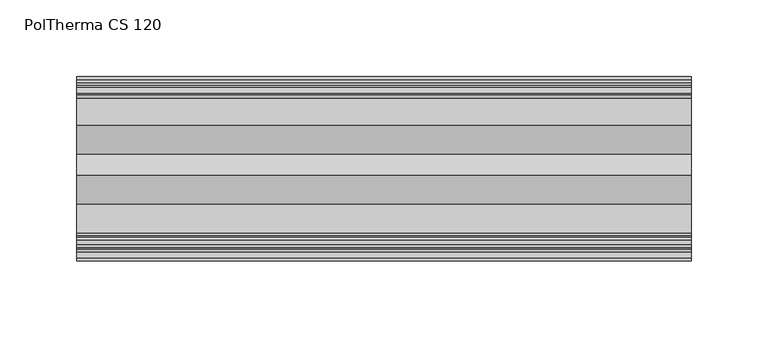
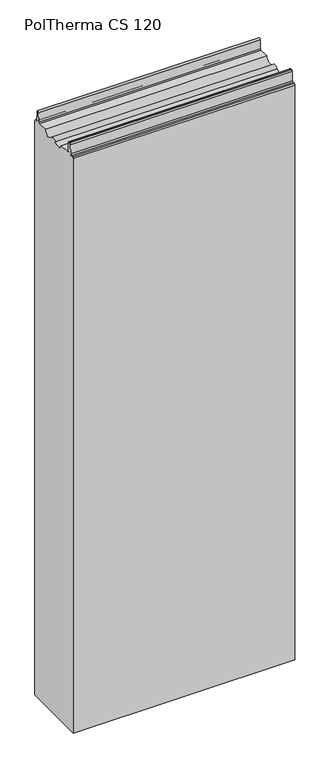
"""IFC4 building model written with IfcOpenShell, lengths in millimetres: plate geometry, Europanels_Poltherma CS_Hz : PolTherma CS 120."""

from ifc_helpers import new_model, si_unit, point, frame, frame_2d, origin, place, context, project, spatial, polyline, circle_curve, trimmed, segment, composite_curve, outline, extrude, source, transform, mapped, element, save


def poltherma_cs_120_40549a2e(model_context):
    return source(origin(), model_context, "Body", "SweptSolid", [
        extrude(outline(composite_curve([segment(polyline([(-60.0, 0.0), (-60.0, 1096.5011047)]), True, "CONTINUOUS"), segment(trimmed(circle_curve(frame_2d((-58.0, 1096.5011047)), 2.0), [point((-60.0, 1096.5011047))], [point((-58.0, 1098.5011047))], False, "CARTESIAN"), True, "CONTINUOUS"), segment(polyline([(-58.0, 1098.5011047), (-54.244573, 1098.5011047)]), True, "CONTINUOUS"), segment(trimmed(circle_curve(frame_2d((-54.244573, 1100.5011047)), 2.0), [point((-54.244573, 1098.5011047))], [point((-52.2483736, 1100.3778643))], True, "CARTESIAN"), True, "CONTINUOUS"), segment(polyline([(-52.2483736, 1100.3778643), (-51.1836192, 1117.624345)]), True, "CONTINUOUS"), segment(trimmed(circle_curve(frame_2d((-49.1874198, 1117.5011047)), 2.0), [point((-51.1836192, 1117.624345))], [point((-49.1874198, 1119.5011047))], False, "CARTESIAN"), True, "CONTINUOUS"), segment(polyline([(-49.1874198, 1119.5011047), (-46.4480373, 1119.5011047)]), True, "CONTINUOUS"), segment(trimmed(circle_curve(frame_2d((-46.4480373, 1117.5011047)), 2.0), [point((-46.4480373, 1119.5011047))], [point((-44.4498501, 1117.5862394))], False, "CARTESIAN"), True, "CONTINUOUS"), segment(polyline([(-44.4498501, 1117.5862394), (-43.7101357, 1100.2244834)]), True, "CONTINUOUS"), segment(trimmed(circle_curve(frame_2d((-41.9117672, 1100.3011047)), 1.8), [point((-43.7101357, 1100.2244834))], [point((-41.9117672, 1098.5011047))], True, "CARTESIAN"), True, "CONTINUOUS"), segment(polyline([(-41.9117672, 1098.5011047), (-22.9234285, 1098.5011047)]), True, "CONTINUOUS"), segment(trimmed(circle_curve(frame_2d((-12.3, 1101.354658)), 11.0), [point((-22.9234285, 1098.5011047))], [point((-4.05, 1094.0788419))], True, "CARTESIAN"), True, "CONTINUOUS"), segment(trimmed(circle_curve(frame_2d((2.7, 1088.1259015)), 9.0), [point((-4.05, 1094.0788419))], [point((9.45, 1094.0788419))], False, "CARTESIAN"), True, "CONTINUOUS"), segment(trimmed(circle_curve(frame_2d((17.7, 1101.354658)), 11.0), [point((9.45, 1094.0788419))], [point((28.3234285, 1098.5011047))], True, "CARTESIAN"), True, "CONTINUOUS"), segment(polyline([(28.3234285, 1098.5011047), (46.113894, 1098.5011047)]), True, "CONTINUOUS"), segment(trimmed(circle_curve(frame_2d((46.113894, 1100.5011047)), 2.0), [point((46.113894, 1098.5011047))], [point((48.1120505, 1100.4152514))], True, "CARTESIAN"), True, "CONTINUOUS"), segment(polyline([(48.1120505, 1100.4152514), (48.8434291, 1117.437418)]), True, "CONTINUOUS"), segment(trimmed(circle_curve(frame_2d((51.0191836, 1117.343934)), 2.1777619), [point((48.8434291, 1117.437418))], [point((53.1927202, 1117.4795275))], False, "CARTESIAN"), True, "CONTINUOUS"), segment(polyline([(53.1927202, 1117.4795275), (54.2596673, 1100.3765791)]), True, "CONTINUOUS"), segment(trimmed(circle_curve(frame_2d((56.2557869, 1100.5011047)), 2.0), [point((54.2596673, 1100.3765791))], [point((56.2557869, 1098.5011047))], True, "CARTESIAN"), True, "CONTINUOUS"), segment(polyline([(56.2557869, 1098.5011047), (58.0, 1098.5011047)]), True, "CONTINUOUS"), segment(trimmed(circle_curve(frame_2d((58.0, 1096.5011047)), 2.0), [point((58.0, 1098.5011047))], [point((60.0, 1096.5011047))], False, "CARTESIAN"), True, "CONTINUOUS"), segment(polyline([(60.0, 1096.5011047), (60.0, 0.0), (-60.0, 0.0)]), True, "CONTINUOUS")], self_intersect=False)), frame((-200.0, 0.0, 0.0), z_axis=(1.0, 0.0, 0.0), x_axis=(0.0, 1.0, 0.0)), (0.0, 0.0, 1.0), 400.0),
    ])


if __name__ == "__main__":
    model = new_model("IFC4")
    model_context = context("Model", 3, world=origin())
    ifc_project = project(units=[si_unit("LENGTHUNIT", "METRE", prefix="MILLI")], contexts=[model_context])
    site = spatial("IfcSite", under=ifc_project)
    building = spatial("IfcBuilding", under=site)
    placement = place(None, origin())
    poltherma_cs_120_shape = poltherma_cs_120_40549a2e(model_context)
    element("IfcPlate", 1, ObjectType="Europanels_Poltherma CS_Hz : PolTherma CS 120", at=placement, inside=building, context=model_context, shape_type="MappedRepresentation", body=[
        mapped(poltherma_cs_120_shape, transform((0.0, 0.0, 0.0), x_axis=(1.0, 0.0, 0.0), y_axis=(0.0, 1.0, 0.0), z_axis=(0.0, 0.0, 1.0))),
    ])
    save(model, "model.ifc")
